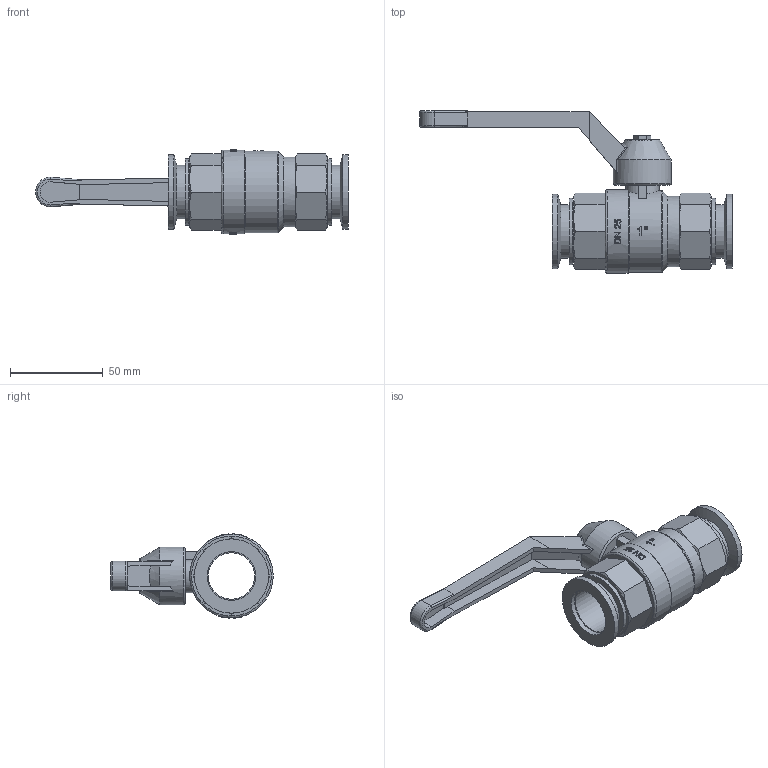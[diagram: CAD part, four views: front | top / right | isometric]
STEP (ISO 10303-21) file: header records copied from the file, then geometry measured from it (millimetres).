
FILE_DESCRIPTION( ( 'Unknown' ), '1' );
FILE_NAME( 'X:/Daten ( aktueller Bestand )/Projekte und Zeichnungen/Solid Edge/STP-Dateien/Kugelhahn, handbetätigt, pneu/4024.stp', 'Unknown', ( 'Unknown' ), ( 'Unknown' ), 'PSStep 14.0', 'Unknown', ' ' );
FILE_SCHEMA( ( 'AUTOMOTIVE_DESIGN { 1 0 10303 214 1 1 1 1 }' ) );
Length unit declared in the file: millimetre
Products named in the file (4): Assem1; TB111025-GEH; HANDHEBEL-TB25; 1584
Assembly tree (4 placements, depth 2):
  Assem1
    TB111025-GEH
    HANDHEBEL-TB25
    1584  x2
Bounding box: 168.5 x 87.5 x 45.38 mm (x, y, z)
Volume: 99824.4 mm3; surface area: 42393.3 mm2
Topology: 4 solids, 4 shells, 282 faces, 724 edges, 473 vertices
Faces by surface type: plane 140, extrusion 50, cylinder 46, cone 37, torus 6, bspline 3
Full cylindrical faces by diameter (mm): 6.5 x1, 12 x1, 14.5 x1, 25 x3, 26.2 x2, 29 x2, 30.291 x2, 31.2 x1, 33.249 x2, 36 x2, 38 x1, 40 x2, 44 x1, 45 x1
Entity records: 11973 total; most frequent: CARTESIAN_POINT 3598, ORIENTED_EDGE 1324, DIRECTION 1145, EDGE_CURVE 662, VERTEX_POINT 448, AXIS2_PLACEMENT_3D 407, VECTOR 331, EDGE_LOOP 322
